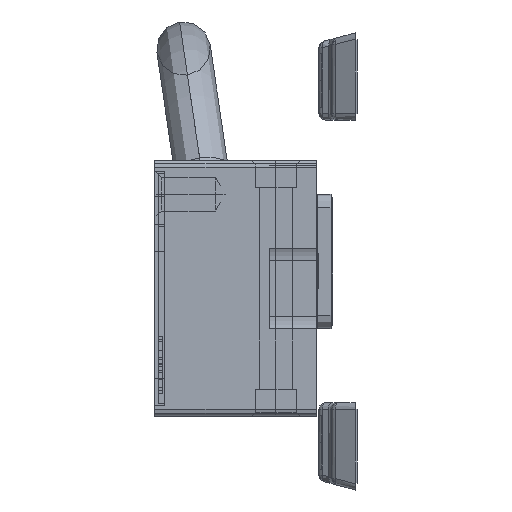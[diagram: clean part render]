
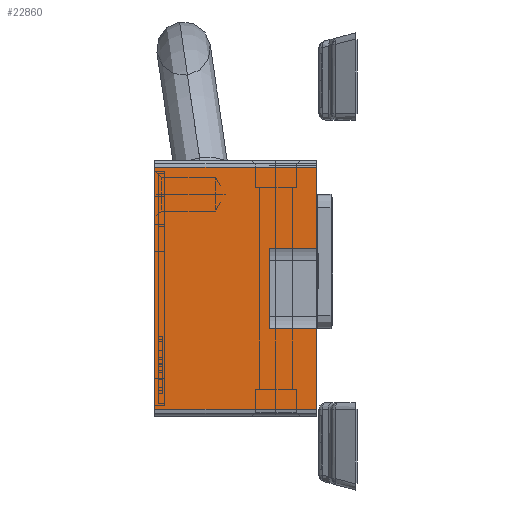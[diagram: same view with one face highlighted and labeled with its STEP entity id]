
A CAD part, left-side view. The second image highlights one B-rep face of the part: STEP entity #22860.
In plain terms, the highlighted planar face has unit normal (-1, 0, 0).
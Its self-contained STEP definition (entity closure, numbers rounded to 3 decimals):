
#16770=CARTESIAN_POINT('',(-46.,18.3,-12.));
#16780=VERTEX_POINT('',#16770);
#16810=CARTESIAN_POINT('',(-46.,0.3,-12.));
#16820=DIRECTION('',(0.,1.,0.));
#16830=VECTOR('',#16820,1.);
#16840=LINE('',#16810,#16830);
#16850=CARTESIAN_POINT('',(-46.,0.3,-12.));
#16860=VERTEX_POINT('',#16850);
#16870=EDGE_CURVE('',#16860,#16780,#16840,.T.);
#20530=CARTESIAN_POINT('',(-46.,18.3,0.))
;
#20540=VERTEX_POINT('',#20530);
#21950=CARTESIAN_POINT('',(-46.,0.3,0.))
;
#21960=VERTEX_POINT('',#21950);
#21990=CARTESIAN_POINT('',(-46.,0.3,0.))
;
#22000=DIRECTION('',(0.,1.,0.));
#22010=VECTOR('',#22000,1.);
#22020=LINE('',#21990,#22010);
#22030=CARTESIAN_POINT('',(-46.,6.328,0.));
#22040=VERTEX_POINT('',#22030);
#22050=EDGE_CURVE('',#21960,#22040,#22020,.T.);
#22290=CARTESIAN_POINT('',(-46.,12.272,0.));
#22300=VERTEX_POINT('',#22290);
#22330=CARTESIAN_POINT('',(-46.,12.272,0.));
#22340=DIRECTION('',(0.,1.,0.));
#22350=VECTOR('',#22340,1.);
#22360=LINE('',#22330,#22350);
#22370=EDGE_CURVE('',#22300,#20540,#22360,.T.);
#22420=CARTESIAN_POINT('',(-46.,17.8,-6.));
#22430=DIRECTION('',(-1.,0.,0.));
#22440=DIRECTION('',(0.,-1.,0.));
#22450=AXIS2_PLACEMENT_3D('',#22420,#22430,#22440);
#22460=PLANE('',#22450);
#22470=CARTESIAN_POINT('',(-46.,12.272,0.))
;
#22480=DIRECTION('',(0.,0.,-1.));
#22490=VECTOR('',#22480,1.);
#22500=LINE('',#22470,#22490);
#22510=CARTESIAN_POINT('',(-46.,12.272,-3.5));
#22520=VERTEX_POINT('',#22510);
#22530=EDGE_CURVE('',#22300,#22520,#22500,.T.);
#22540=ORIENTED_EDGE('',*,*,#22530,.F.);
#22550=CARTESIAN_POINT('',(-46.,12.272,-3.5));
#22560=DIRECTION('',(0.,-1.,0.));
#22570=VECTOR('',#22560,1.);
#22580=LINE('',#22550,#22570);
#22590=CARTESIAN_POINT('',(-46.,6.328,-3.5));
#22600=VERTEX_POINT('',#22590);
#22610=EDGE_CURVE('',#22520,#22600,#22580,.T.);
#22620=ORIENTED_EDGE('',*,*,#22610,.F.);
#22630=CARTESIAN_POINT('',(-46.,6.328,-3.5));
#22640=DIRECTION('',(0.,0.,1.));
#22650=VECTOR('',#22640,1.);
#22660=LINE('',#22630,#22650);
#22670=EDGE_CURVE('',#22600,#22040,#22660,.T.);
#22680=ORIENTED_EDGE('',*,*,#22670,.F.);
#22690=ORIENTED_EDGE('',*,*,#22050,.T.);
#22700=CARTESIAN_POINT('',(-46.,0.3,0.))
;
#22710=DIRECTION('',(0.,0.,-1.));
#22720=VECTOR('',#22710,1.);
#22730=LINE('',#22700,#22720);
#22740=EDGE_CURVE('',#21960,#16860,#22730,.T.);
#22750=ORIENTED_EDGE('',*,*,#22740,.F.);
#22760=ORIENTED_EDGE('',*,*,#16870,.F.);
#22770=CARTESIAN_POINT('',(-46.,18.3,-12.));
#22780=DIRECTION('',(0.,0.,1.));
#22790=VECTOR('',#22780,1.);
#22800=LINE('',#22770,#22790);
#22810=EDGE_CURVE('',#16780,#20540,#22800,.T.);
#22820=ORIENTED_EDGE('',*,*,#22810,.F.);
#22830=ORIENTED_EDGE('',*,*,#22370,.T.);
#22840=EDGE_LOOP('',(#22830,#22820,#22760,#22750,#22690,#22680,#22620,
#22540));
#22850=FACE_OUTER_BOUND('',#22840,.T.);
#22860=ADVANCED_FACE('',(#22850),#22460,.T.);
